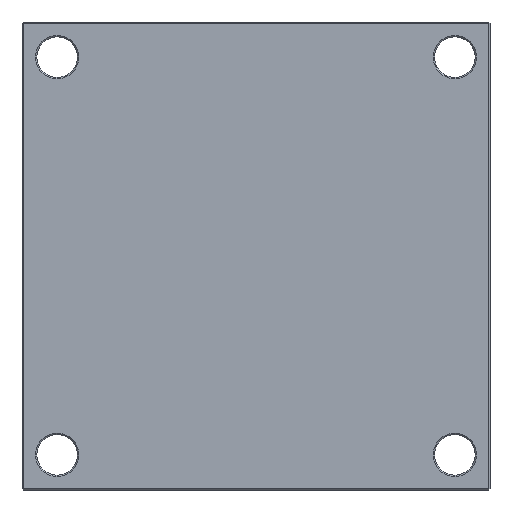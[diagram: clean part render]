
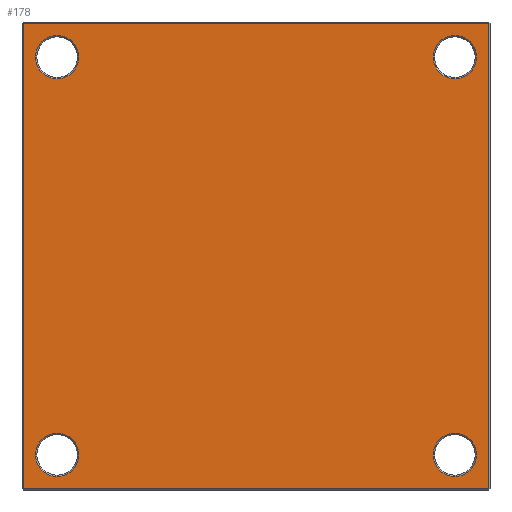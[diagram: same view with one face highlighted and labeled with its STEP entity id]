
A CAD part, front view. The second image highlights one B-rep face of the part: STEP entity #178.
In plain terms, the highlighted planar face has unit normal (0, -1, 0).
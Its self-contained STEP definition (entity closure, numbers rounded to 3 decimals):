
#8 = EDGE_CURVE ( 'NONE', #252, #2139, #1004, .T. ) ;
#11 = CARTESIAN_POINT ( 'NONE',  ( 172., 0., 172. ) ) ;
#19 = CIRCLE ( 'NONE', #1637, 16. ) ;
#66 = AXIS2_PLACEMENT_3D ( 'NONE', #1736, #1699, #183 ) ;
#86 = CARTESIAN_POINT ( 'NONE',  ( -172., 0., -172. ) ) ;
#87 = VERTEX_POINT ( 'NONE', #1870 ) ;
#103 = VERTEX_POINT ( 'NONE', #2063 ) ;
#109 = PLANE ( 'NONE',  #742 ) ;
#116 = CARTESIAN_POINT ( 'NONE',  ( -147., 0., -147. ) ) ;
#125 = EDGE_CURVE ( 'NONE', #1625, #1188, #2087, .T. ) ;
#127 = VECTOR ( 'NONE', #1505, 1000. ) ;
#132 = VERTEX_POINT ( 'NONE', #1733 ) ;
#149 = AXIS2_PLACEMENT_3D ( 'NONE', #1841, #2035, #2081 ) ;
#174 = ORIENTED_EDGE ( 'NONE', *, *, #572, .T. ) ;
#178 = ADVANCED_FACE ( 'NONE', ( #1064, #632, #1883, #305, #1462 ), #109, .F. ) ;
#183 = DIRECTION ( 'NONE',  ( 0., 0., 1. ) ) ;
#211 = CARTESIAN_POINT ( 'NONE',  ( -147., 0., 147. ) ) ;
#213 = EDGE_CURVE ( 'NONE', #1490, #761, #2045, .T. ) ;
#225 = EDGE_LOOP ( 'NONE', ( #642, #1726 ) ) ;
#230 = ORIENTED_EDGE ( 'NONE', *, *, #125, .T. ) ;
#235 = DIRECTION ( 'NONE',  ( 0., 0., 1. ) ) ;
#251 = DIRECTION ( 'NONE',  ( 0., 1., 0. ) ) ;
#252 = VERTEX_POINT ( 'NONE', #897 ) ;
#259 = DIRECTION ( 'NONE',  ( 0., 0., 1. ) ) ;
#279 = CIRCLE ( 'NONE', #149, 16. ) ;
#293 = ORIENTED_EDGE ( 'NONE', *, *, #8, .T. ) ;
#305 = FACE_BOUND ( 'NONE', #2002, .T. ) ;
#331 = EDGE_CURVE ( 'NONE', #132, #597, #19, .T. ) ;
#338 = CIRCLE ( 'NONE', #2104, 16. ) ;
#384 = EDGE_CURVE ( 'NONE', #2139, #252, #338, .T. ) ;
#391 = EDGE_CURVE ( 'NONE', #761, #1490, #279, .T. ) ;
#413 = ORIENTED_EDGE ( 'NONE', *, *, #723, .T. ) ;
#430 = EDGE_CURVE ( 'NONE', #597, #132, #774, .T. ) ;
#453 = DIRECTION ( 'NONE',  ( 0., 1., 0. ) ) ;
#467 = LINE ( 'NONE', #2126, #873 ) ;
#494 = AXIS2_PLACEMENT_3D ( 'NONE', #211, #251, #259 ) ;
#528 = EDGE_CURVE ( 'NONE', #87, #2043, #1642, .T. ) ;
#563 = DIRECTION ( 'NONE',  ( 0., 1., 0. ) ) ;
#572 = EDGE_CURVE ( 'NONE', #1188, #1625, #926, .T. ) ;
#597 = VERTEX_POINT ( 'NONE', #885 ) ;
#608 = EDGE_CURVE ( 'NONE', #2043, #103, #467, .T. ) ;
#632 = FACE_BOUND ( 'NONE', #1340, .T. ) ;
#642 = ORIENTED_EDGE ( 'NONE', *, *, #213, .T. ) ;
#654 = VECTOR ( 'NONE', #1649, 1000. ) ;
#702 = DIRECTION ( 'NONE',  ( 0., 0., 1. ) ) ;
#723 = EDGE_CURVE ( 'NONE', #103, #2050, #1082, .T. ) ;
#742 = AXIS2_PLACEMENT_3D ( 'NONE', #808, #2009, #702 ) ;
#761 = VERTEX_POINT ( 'NONE', #1531 ) ;
#762 = CARTESIAN_POINT ( 'NONE',  ( 147., 0., 147. ) ) ;
#763 = EDGE_CURVE ( 'NONE', #2050, #87, #1307, .T. ) ;
#768 = DIRECTION ( 'NONE',  ( 0., 1., 0. ) ) ;
#774 = CIRCLE ( 'NONE', #494, 16. ) ;
#782 = CARTESIAN_POINT ( 'NONE',  ( 147., 0., -147. ) ) ;
#783 = DIRECTION ( 'NONE',  ( 0., 0., 1. ) ) ;
#808 = CARTESIAN_POINT ( 'NONE',  ( 0., 0., 0. ) ) ;
#836 = CARTESIAN_POINT ( 'NONE',  ( 147., 0., -163. ) ) ;
#873 = VECTOR ( 'NONE', #2151, 1000. ) ;
#885 = CARTESIAN_POINT ( 'NONE',  ( -147., 0., 163. ) ) ;
#897 = CARTESIAN_POINT ( 'NONE',  ( -147., 0., -131. ) ) ;
#926 = CIRCLE ( 'NONE', #1624, 16. ) ;
#1004 = CIRCLE ( 'NONE', #1555, 16. ) ;
#1035 = VECTOR ( 'NONE', #1224, 1000. ) ;
#1044 = ORIENTED_EDGE ( 'NONE', *, *, #384, .T. ) ;
#1064 = FACE_BOUND ( 'NONE', #1365, .T. ) ;
#1073 = AXIS2_PLACEMENT_3D ( 'NONE', #762, #768, #783 ) ;
#1082 = LINE ( 'NONE', #1136, #654 ) ;
#1136 = CARTESIAN_POINT ( 'NONE',  ( -172., 0., 0. ) ) ;
#1188 = VERTEX_POINT ( 'NONE', #836 ) ;
#1224 = DIRECTION ( 'NONE',  ( 1., 0., 0. ) ) ;
#1287 = CARTESIAN_POINT ( 'NONE',  ( 0., 0., -172. ) ) ;
#1307 = LINE ( 'NONE', #1287, #1035 ) ;
#1340 = EDGE_LOOP ( 'NONE', ( #174, #230 ) ) ;
#1365 = EDGE_LOOP ( 'NONE', ( #1044, #293 ) ) ;
#1462 = FACE_OUTER_BOUND ( 'NONE', #1597, .T. ) ;
#1471 = CARTESIAN_POINT ( 'NONE',  ( 147., 0., 131. ) ) ;
#1476 = CARTESIAN_POINT ( 'NONE',  ( 172., 0., 0. ) ) ;
#1490 = VERTEX_POINT ( 'NONE', #1471 ) ;
#1505 = DIRECTION ( 'NONE',  ( 0., 0., 1. ) ) ;
#1531 = CARTESIAN_POINT ( 'NONE',  ( 147., 0., 163. ) ) ;
#1555 = AXIS2_PLACEMENT_3D ( 'NONE', #116, #1685, #1686 ) ;
#1558 = CARTESIAN_POINT ( 'NONE',  ( -147., 0., 147. ) ) ;
#1563 = DIRECTION ( 'NONE',  ( 0., 1., 0. ) ) ;
#1570 = DIRECTION ( 'NONE',  ( 0., 0., 1. ) ) ;
#1597 = EDGE_LOOP ( 'NONE', ( #2079, #2123, #413, #2166 ) ) ;
#1624 = AXIS2_PLACEMENT_3D ( 'NONE', #782, #563, #235 ) ;
#1625 = VERTEX_POINT ( 'NONE', #2127 ) ;
#1637 = AXIS2_PLACEMENT_3D ( 'NONE', #1558, #1563, #1570 ) ;
#1642 = LINE ( 'NONE', #1476, #127 ) ;
#1649 = DIRECTION ( 'NONE',  ( 0., 0., -1. ) ) ;
#1685 = DIRECTION ( 'NONE',  ( 0., 1., 0. ) ) ;
#1686 = DIRECTION ( 'NONE',  ( 0., 0., 1. ) ) ;
#1695 = CARTESIAN_POINT ( 'NONE',  ( -147., 0., -147. ) ) ;
#1699 = DIRECTION ( 'NONE',  ( 0., 1., 0. ) ) ;
#1726 = ORIENTED_EDGE ( 'NONE', *, *, #391, .T. ) ;
#1733 = CARTESIAN_POINT ( 'NONE',  ( -147., 0., 131. ) ) ;
#1736 = CARTESIAN_POINT ( 'NONE',  ( 147., 0., -147. ) ) ;
#1755 = DIRECTION ( 'NONE',  ( 0., 0., 1. ) ) ;
#1841 = CARTESIAN_POINT ( 'NONE',  ( 147., 0., 147. ) ) ;
#1870 = CARTESIAN_POINT ( 'NONE',  ( 172., 0., -172. ) ) ;
#1883 = FACE_BOUND ( 'NONE', #225, .T. ) ;
#2002 = EDGE_LOOP ( 'NONE', ( #2030, #2055 ) ) ;
#2009 = DIRECTION ( 'NONE',  ( 0., 1., 0. ) ) ;
#2013 = CARTESIAN_POINT ( 'NONE',  ( -147., 0., -163. ) ) ;
#2030 = ORIENTED_EDGE ( 'NONE', *, *, #331, .T. ) ;
#2035 = DIRECTION ( 'NONE',  ( 0., 1., 0. ) ) ;
#2043 = VERTEX_POINT ( 'NONE', #11 ) ;
#2045 = CIRCLE ( 'NONE', #1073, 16. ) ;
#2050 = VERTEX_POINT ( 'NONE', #86 ) ;
#2055 = ORIENTED_EDGE ( 'NONE', *, *, #430, .T. ) ;
#2063 = CARTESIAN_POINT ( 'NONE',  ( -172., 0., 172. ) ) ;
#2079 = ORIENTED_EDGE ( 'NONE', *, *, #528, .T. ) ;
#2081 = DIRECTION ( 'NONE',  ( 0., 0., 1. ) ) ;
#2087 = CIRCLE ( 'NONE', #66, 16. ) ;
#2104 = AXIS2_PLACEMENT_3D ( 'NONE', #1695, #453, #1755 ) ;
#2123 = ORIENTED_EDGE ( 'NONE', *, *, #608, .T. ) ;
#2126 = CARTESIAN_POINT ( 'NONE',  ( 0., 0., 172. ) ) ;
#2127 = CARTESIAN_POINT ( 'NONE',  ( 147., 0., -131. ) ) ;
#2139 = VERTEX_POINT ( 'NONE', #2013 ) ;
#2151 = DIRECTION ( 'NONE',  ( -1., 0., 0. ) ) ;
#2166 = ORIENTED_EDGE ( 'NONE', *, *, #763, .T. ) ;
